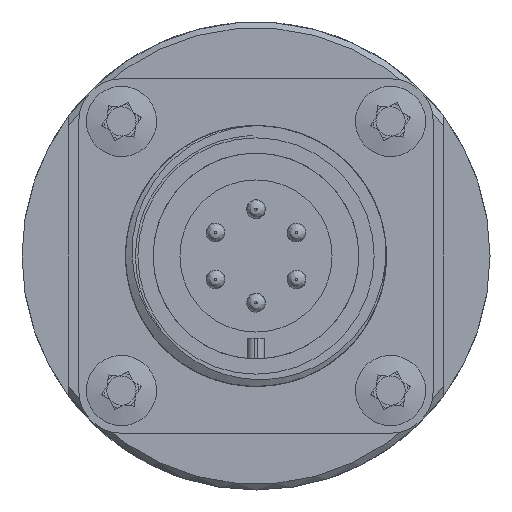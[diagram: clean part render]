
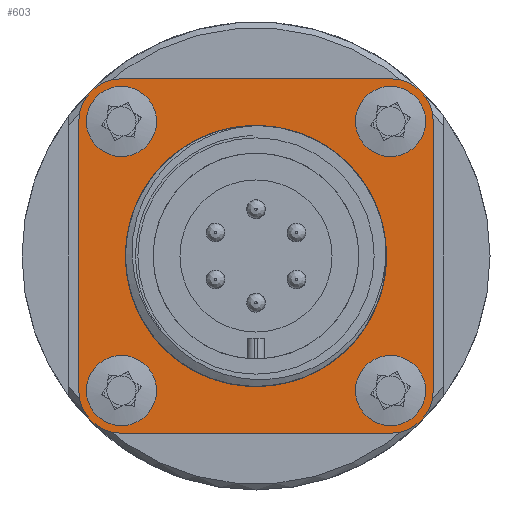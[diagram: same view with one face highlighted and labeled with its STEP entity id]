
A CAD part, front view. The second image highlights one B-rep face of the part: STEP entity #603.
In plain terms, the highlighted planar face has unit normal (0, -1, 0) as drawn and (-1, 0, 0) by its records, which use the part's own axes.
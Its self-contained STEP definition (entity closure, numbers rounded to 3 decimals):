
#603 = ADVANCED_FACE( '', ( #1200, #1201, #1202, #1203, #1204, #1205 ), #1206, .F. );
#1200 = FACE_BOUND( '', #5036, .T. );
#1201 = FACE_BOUND( '', #5037, .T. );
#1202 = FACE_OUTER_BOUND( '', #5038, .T. );
#1203 = FACE_BOUND( '', #5039, .T. );
#1204 = FACE_BOUND( '', #5040, .T. );
#1205 = FACE_BOUND( '', #5041, .T. );
#1206 = PLANE( '', #5042 );
#5036 = EDGE_LOOP( '', ( #7498 ) );
#5037 = EDGE_LOOP( '', ( #7499 ) );
#5038 = EDGE_LOOP( '', ( #7500, #7501, #7502, #7503, #7504, #7505, #7506, #7507 ) );
#5039 = EDGE_LOOP( '', ( #7508 ) );
#5040 = EDGE_LOOP( '', ( #7509 ) );
#5041 = EDGE_LOOP( '', ( #7510 ) );
#5042 = AXIS2_PLACEMENT_3D( '', #7511, #7512, #7513 );
#7498 = ORIENTED_EDGE( '', *, *, #8267, .T. );
#7499 = ORIENTED_EDGE( '', *, *, #8464, .T. );
#7500 = ORIENTED_EDGE( '', *, *, #8465, .F. );
#7501 = ORIENTED_EDGE( '', *, *, #8445, .F. );
#7502 = ORIENTED_EDGE( '', *, *, #8427, .F. );
#7503 = ORIENTED_EDGE( '', *, *, #8466, .F. );
#7504 = ORIENTED_EDGE( '', *, *, #8467, .F. );
#7505 = ORIENTED_EDGE( '', *, *, #8202, .F. );
#7506 = ORIENTED_EDGE( '', *, *, #8265, .F. );
#7507 = ORIENTED_EDGE( '', *, *, #8294, .F. );
#7508 = ORIENTED_EDGE( '', *, *, #8468, .T. );
#7509 = ORIENTED_EDGE( '', *, *, #8155, .T. );
#7510 = ORIENTED_EDGE( '', *, *, #8469, .T. );
#7511 = CARTESIAN_POINT( '', ( -2.4, -11.5, 11.5 ) );
#7512 = DIRECTION( '', ( 1., 0., 0. ) );
#7513 = DIRECTION( '', ( 0., 1., 0. ) );
#8155 = EDGE_CURVE( '', #8716, #8716, #8717, .T. );
#8202 = EDGE_CURVE( '', #8797, #8799, #8800, .T. );
#8265 = EDGE_CURVE( '', #8895, #8797, #8897, .T. );
#8267 = EDGE_CURVE( '', #8899, #8899, #8900, .T. );
#8294 = EDGE_CURVE( '', #8941, #8895, #8943, .T. );
#8427 = EDGE_CURVE( '', #9137, #9139, #9140, .T. );
#8445 = EDGE_CURVE( '', #9139, #9165, #9166, .T. );
#8464 = EDGE_CURVE( '', #9190, #9190, #9191, .T. );
#8465 = EDGE_CURVE( '', #9165, #8941, #9192, .T. );
#8466 = EDGE_CURVE( '', #9193, #9137, #9194, .T. );
#8467 = EDGE_CURVE( '', #8799, #9193, #9195, .T. );
#8468 = EDGE_CURVE( '', #9196, #9196, #9197, .T. );
#8469 = EDGE_CURVE( '', #9198, #9198, #9199, .T. );
#8716 = VERTEX_POINT( '', #9547 );
#8717 = CIRCLE( '', #9548, 1.5 );
#8797 = VERTEX_POINT( '', #10192 );
#8799 = VERTEX_POINT( '', #10195 );
#8800 = LINE( '', #10196, #10197 );
#8895 = VERTEX_POINT( '', #10862 );
#8897 = CIRCLE( '', #10865, 3.65 );
#8899 = VERTEX_POINT( '', #10867 );
#8900 = CIRCLE( '', #10868, 11.15 );
#8941 = VERTEX_POINT( '', #11274 );
#8943 = LINE( '', #11277, #11278 );
#9137 = VERTEX_POINT( '', #12753 );
#9139 = VERTEX_POINT( '', #12756 );
#9140 = CIRCLE( '', #12757, 3.65 );
#9165 = VERTEX_POINT( '', #12937 );
#9166 = LINE( '', #12938, #12939 );
#9190 = VERTEX_POINT( '', #12988 );
#9191 = CIRCLE( '', #12989, 1.5 );
#9192 = CIRCLE( '', #12990, 3.65 );
#9193 = VERTEX_POINT( '', #12991 );
#9194 = LINE( '', #12992, #12993 );
#9195 = CIRCLE( '', #12994, 3.65 );
#9196 = VERTEX_POINT( '', #12995 );
#9197 = CIRCLE( '', #12996, 1.5 );
#9198 = VERTEX_POINT( '', #12997 );
#9199 = CIRCLE( '', #12998, 1.5 );
#9547 = CARTESIAN_POINT( '', ( -2.4, 13., -11.5 ) );
#9548 = AXIS2_PLACEMENT_3D( '', #13321, #13322, #13323 );
#10192 = CARTESIAN_POINT( '', ( -2.4, -11.5, -15.15 ) );
#10195 = CARTESIAN_POINT( '', ( -2.4, 11.5, -15.15 ) );
#10196 = CARTESIAN_POINT( '', ( -2.4, -11.5, -15.15 ) );
#10197 = VECTOR( '', #13377, 1000. );
#10862 = CARTESIAN_POINT( '', ( -2.4, -15.15, -11.5 ) );
#10865 = AXIS2_PLACEMENT_3D( '', #13445, #13446, #13447 );
#10867 = CARTESIAN_POINT( '', ( -2.4, 11.15, 0. ) );
#10868 = AXIS2_PLACEMENT_3D( '', #13448, #13449, #13450 );
#11274 = CARTESIAN_POINT( '', ( -2.4, -15.15, 11.5 ) );
#11277 = CARTESIAN_POINT( '', ( -2.4, -15.15, 11.5 ) );
#11278 = VECTOR( '', #13485, 1000. );
#12753 = CARTESIAN_POINT( '', ( -2.4, 15.15, 11.5 ) );
#12756 = CARTESIAN_POINT( '', ( -2.4, 11.5, 15.15 ) );
#12757 = AXIS2_PLACEMENT_3D( '', #13618, #13619, #13620 );
#12937 = CARTESIAN_POINT( '', ( -2.4, -11.5, 15.15 ) );
#12938 = CARTESIAN_POINT( '', ( -2.4, -11.5, 15.15 ) );
#12939 = VECTOR( '', #13641, 1000. );
#12988 = CARTESIAN_POINT( '', ( -2.4, -10., 11.5 ) );
#12989 = AXIS2_PLACEMENT_3D( '', #13658, #13659, #13660 );
#12990 = AXIS2_PLACEMENT_3D( '', #13661, #13662, #13663 );
#12991 = CARTESIAN_POINT( '', ( -2.4, 15.15, -11.5 ) );
#12992 = CARTESIAN_POINT( '', ( -2.4, 15.15, 11.5 ) );
#12993 = VECTOR( '', #13664, 1000. );
#12994 = AXIS2_PLACEMENT_3D( '', #13665, #13666, #13667 );
#12995 = CARTESIAN_POINT( '', ( -2.4, 13., 11.5 ) );
#12996 = AXIS2_PLACEMENT_3D( '', #13668, #13669, #13670 );
#12997 = CARTESIAN_POINT( '', ( -2.4, -10., -11.5 ) );
#12998 = AXIS2_PLACEMENT_3D( '', #13671, #13672, #13673 );
#13321 = CARTESIAN_POINT( '', ( -2.4, 11.5, -11.5 ) );
#13322 = DIRECTION( '', ( 1., 0., 0. ) );
#13323 = DIRECTION( '', ( 0., 1., 0. ) );
#13377 = DIRECTION( '', ( 0., 1., 0. ) );
#13445 = CARTESIAN_POINT( '', ( -2.4, -11.5, -11.5 ) );
#13446 = DIRECTION( '', ( 1., 0., 0. ) );
#13447 = DIRECTION( '', ( 0., 1., 0. ) );
#13448 = CARTESIAN_POINT( '', ( -2.4, 0., 0. ) );
#13449 = DIRECTION( '', ( 1., 0., 0. ) );
#13450 = DIRECTION( '', ( 0., 1., 0. ) );
#13485 = DIRECTION( '', ( 0., 0., -1. ) );
#13618 = CARTESIAN_POINT( '', ( -2.4, 11.5, 11.5 ) );
#13619 = DIRECTION( '', ( 1., 0., 0. ) );
#13620 = DIRECTION( '', ( 0., 1., 0. ) );
#13641 = DIRECTION( '', ( 0., -1., 0. ) );
#13658 = CARTESIAN_POINT( '', ( -2.4, -11.5, 11.5 ) );
#13659 = DIRECTION( '', ( 1., 0., 0. ) );
#13660 = DIRECTION( '', ( 0., 1., 0. ) );
#13661 = CARTESIAN_POINT( '', ( -2.4, -11.5, 11.5 ) );
#13662 = DIRECTION( '', ( 1., 0., 0. ) );
#13663 = DIRECTION( '', ( 0., 1., 0. ) );
#13664 = DIRECTION( '', ( 0., 0., 1. ) );
#13665 = CARTESIAN_POINT( '', ( -2.4, 11.5, -11.5 ) );
#13666 = DIRECTION( '', ( 1., 0., 0. ) );
#13667 = DIRECTION( '', ( 0., -1., 0. ) );
#13668 = CARTESIAN_POINT( '', ( -2.4, 11.5, 11.5 ) );
#13669 = DIRECTION( '', ( 1., 0., 0. ) );
#13670 = DIRECTION( '', ( 0., 1., 0. ) );
#13671 = CARTESIAN_POINT( '', ( -2.4, -11.5, -11.5 ) );
#13672 = DIRECTION( '', ( 1., 0., 0. ) );
#13673 = DIRECTION( '', ( 0., 1., 0. ) );
